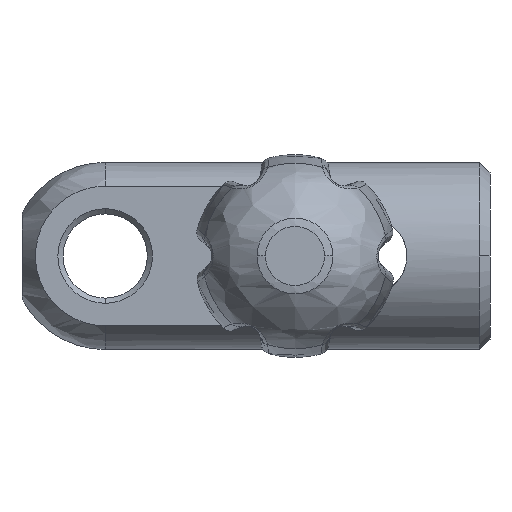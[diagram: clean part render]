
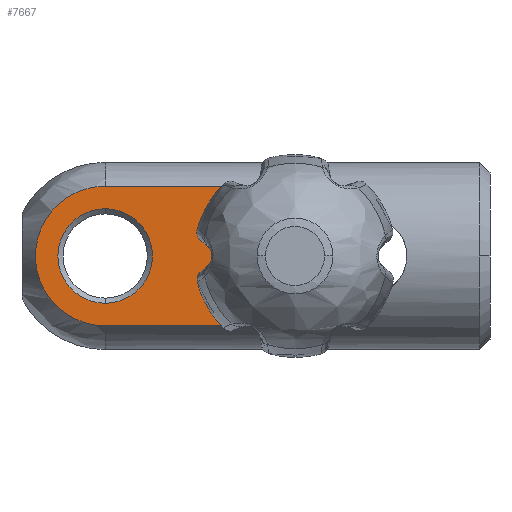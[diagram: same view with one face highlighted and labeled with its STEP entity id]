
A CAD part, left-side view. The second image highlights one B-rep face of the part: STEP entity #7667.
In plain terms, the highlighted planar face has unit normal (-1, 0, 0).
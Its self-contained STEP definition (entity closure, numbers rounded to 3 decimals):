
#129 = DIRECTION ( 'NONE',  ( 0., -1., 0. ) ) ;
#266 = EDGE_CURVE ( 'NONE', #3906, #3676, #6307, .T. ) ;
#279 = CARTESIAN_POINT ( 'NONE',  ( -6., 27.883, -0.121 ) ) ;
#349 = CARTESIAN_POINT ( 'NONE',  ( -6., 21.174, -7.262 ) ) ;
#1028 = CARTESIAN_POINT ( 'NONE',  ( -6., 27.839, -1.431 ) ) ;
#1063 = CARTESIAN_POINT ( 'NONE',  ( -6., 21.617, -7.262 ) ) ;
#1101 = CARTESIAN_POINT ( 'NONE',  ( -6., 27.839, 0.324 ) ) ;
#1134 = CARTESIAN_POINT ( 'NONE',  ( -6., 26.875, 2.989 ) ) ;
#1226 = CARTESIAN_POINT ( 'NONE',  ( -6., 21.174, 6.155 ) ) ;
#1793 = ORIENTED_EDGE ( 'NONE', *, *, #7213, .F. ) ;
#1852 = CARTESIAN_POINT ( 'NONE',  ( -6., 24.149, 5.463 ) ) ;
#1929 = CARTESIAN_POINT ( 'NONE',  ( -6., 23.338, 5.811 ) ) ;
#1966 = CARTESIAN_POINT ( 'NONE',  ( -6., 23.948, 5.558 ) ) ;
#2083 = VERTEX_POINT ( 'NONE', #4510 ) ;
#2474 = CIRCLE ( 'NONE', #6005, 4.55 ) ;
#2479 = VERTEX_POINT ( 'NONE', #3078 ) ;
#2510 = EDGE_CURVE ( 'NONE', #2083, #8155, #3871, .T. ) ;
#2654 = EDGE_CURVE ( 'NONE', #3676, #8176, #3586, .T. ) ;
#2657 = CARTESIAN_POINT ( 'NONE',  ( -6., 21.174, -0.554 ) ) ;
#2701 = CARTESIAN_POINT ( 'NONE',  ( -6., 22.061, 6.11 ) ) ;
#2725 = CARTESIAN_POINT ( 'NONE',  ( -6., 21.174, -5.104 ) ) ;
#2734 = DIRECTION ( 'NONE',  ( -1., 0., 0. ) ) ;
#2738 = CARTESIAN_POINT ( 'NONE',  ( -6., 25.608, -5.606 ) ) ;
#2774 = CARTESIAN_POINT ( 'NONE',  ( -6., 22.92, 5.938 ) ) ;
#2807 = CARTESIAN_POINT ( 'NONE',  ( -6., 27.71, -2.08 ) ) ;
#2848 = CARTESIAN_POINT ( 'NONE',  ( -6., 24.149, -6.582 ) ) ;
#3078 = CARTESIAN_POINT ( 'NONE',  ( -6., 9.174, -7.262 ) ) ;
#3128 = LINE ( 'NONE', #7181, #6692 ) ;
#3189 = CARTESIAN_POINT ( 'NONE',  ( -6., 27.882, -0.554 ) ) ;
#3216 = DIRECTION ( 'NONE',  ( -1., 0., 0. ) ) ;
#3225 = PLANE ( 'NONE',  #10706 ) ;
#3233 = ORIENTED_EDGE ( 'NONE', *, *, #7354, .T. ) ;
#3257 = FACE_BOUND ( 'NONE', #3701, .T. ) ;
#3586 = LINE ( 'NONE', #4378, #4661 ) ;
#3655 = CARTESIAN_POINT ( 'NONE',  ( -6., 27.194, -3.522 ) ) ;
#3676 = VERTEX_POINT ( 'NONE', #1226 ) ;
#3699 = CARTESIAN_POINT ( 'NONE',  ( -6., 26.227, -4.987 ) ) ;
#3701 = EDGE_LOOP ( 'NONE', ( #6328, #1793 ) ) ;
#3823 = ORIENTED_EDGE ( 'NONE', *, *, #7601, .F. ) ;
#3871 = CIRCLE ( 'NONE', #4261, 4.55 ) ;
#3906 = VERTEX_POINT ( 'NONE', #7363 ) ;
#4261 = AXIS2_PLACEMENT_3D ( 'NONE', #8167, #3216, #9925 ) ;
#4378 = CARTESIAN_POINT ( 'NONE',  ( -6., 2.674, 6.155 ) ) ;
#4510 = CARTESIAN_POINT ( 'NONE',  ( -6., 21.174, 3.996 ) ) ;
#4569 = CARTESIAN_POINT ( 'NONE',  ( -6., 27.668, 1.184 ) ) ;
#4661 = VECTOR ( 'NONE', #129, 1000. ) ;
#5028 = EDGE_LOOP ( 'NONE', ( #3233, #5667, #10093, #3823 ) ) ;
#5259 = CARTESIAN_POINT ( 'NONE',  ( -6., 27.195, 2.412 ) ) ;
#5330 = CARTESIAN_POINT ( 'NONE',  ( -6., 27.381, -3.127 ) ) ;
#5366 = CARTESIAN_POINT ( 'NONE',  ( -6., 26.987, -3.909 ) ) ;
#5411 = CARTESIAN_POINT ( 'NONE',  ( -6., 27.528, -2.715 ) ) ;
#5648 = VECTOR ( 'NONE', #6585, 1000. ) ;
#5667 = ORIENTED_EDGE ( 'NONE', *, *, #2654, .F. ) ;
#5817 = DIRECTION ( 'NONE',  ( 1., 0., 0. ) ) ;
#5850 = DIRECTION ( 'NONE',  ( 0., 0., -1. ) ) ;
#6005 = AXIS2_PLACEMENT_3D ( 'NONE', #2657, #2734, #8597 ) ;
#6125 = CARTESIAN_POINT ( 'NONE',  ( -6., 22.696, -7.09 ) ) ;
#6166 = CARTESIAN_POINT ( 'NONE',  ( -6., 26.988, 2.801 ) ) ;
#6307 = B_SPLINE_CURVE_WITH_KNOTS ( 'NONE', 3,
 ( #349, #1063, #7058, #6125, #7893, #8600, #10332, #2848, #9561, #7852, #2738, #3699, #8708, #9485, #5366, #3655, #5330, #5411, #7746, #2807, #1028, #10266, #279, #1101, #4569, #6986, #10409, #5259, #6166, #1134, #10302, #7024, #6948, #9414, #8672, #6909, #1852, #1966, #1929, #2774, #2701, #8637, #7780 ),
 .UNSPECIFIED., .F., .F.,
 ( 4, 2, 2, 2, 2, 2, 2, 2, 1, 2, 2, 2, 2, 2, 2, 2, 2, 2, 2, 2, 2, 4 ),
 ( 0., 0.001, 0.002, 0.003, 0.004, 0.005, 0.007, 0.007, 0.008, 0.009, 0.009, 0.01, 0.012, 0.013, 0.014, 0.014, 0.016, 0.017, 0.018, 0.018, 0.02, 0.021 ),
 .UNSPECIFIED. ) ;
#6328 = ORIENTED_EDGE ( 'NONE', *, *, #2510, .F. ) ;
#6585 = DIRECTION ( 'NONE',  ( 0., 1., 0. ) ) ;
#6692 = VECTOR ( 'NONE', #9613, 1000. ) ;
#6909 = CARTESIAN_POINT ( 'NONE',  ( -6., 24.537, 5.255 ) ) ;
#6948 = CARTESIAN_POINT ( 'NONE',  ( -6., 25.608, 4.5 ) ) ;
#6986 = CARTESIAN_POINT ( 'NONE',  ( -6., 27.542, 1.602 ) ) ;
#7024 = CARTESIAN_POINT ( 'NONE',  ( -6., 26.234, 3.873 ) ) ;
#7058 = CARTESIAN_POINT ( 'NONE',  ( -6., 22.053, -7.218 ) ) ;
#7181 = CARTESIAN_POINT ( 'NONE',  ( -6., 9.174, -0.554 ) ) ;
#7213 = EDGE_CURVE ( 'NONE', #8155, #2083, #2474, .T. ) ;
#7229 = LINE ( 'NONE', #7466, #5648 ) ;
#7354 = EDGE_CURVE ( 'NONE', #2479, #8176, #3128, .T. ) ;
#7363 = CARTESIAN_POINT ( 'NONE',  ( -6., 21.174, -7.262 ) ) ;
#7466 = CARTESIAN_POINT ( 'NONE',  ( -6., 2.674, -7.262 ) ) ;
#7479 = FACE_OUTER_BOUND ( 'NONE', #5028, .T. ) ;
#7601 = EDGE_CURVE ( 'NONE', #2479, #3906, #7229, .T. ) ;
#7667 = ADVANCED_FACE ( 'NONE', ( #3257, #7479 ), #3225, .F. ) ;
#7746 = CARTESIAN_POINT ( 'NONE',  ( -6., 27.656, -2.295 ) ) ;
#7780 = CARTESIAN_POINT ( 'NONE',  ( -6., 21.174, 6.155 ) ) ;
#7852 = CARTESIAN_POINT ( 'NONE',  ( -6., 25.263, -5.89 ) ) ;
#7893 = CARTESIAN_POINT ( 'NONE',  ( -6., 22.909, -7.037 ) ) ;
#8155 = VERTEX_POINT ( 'NONE', #2725 ) ;
#8167 = CARTESIAN_POINT ( 'NONE',  ( -6., 21.174, -0.554 ) ) ;
#8176 = VERTEX_POINT ( 'NONE', #9475 ) ;
#8597 = DIRECTION ( 'NONE',  ( 0., 0., 1. ) ) ;
#8600 = CARTESIAN_POINT ( 'NONE',  ( -6., 23.33, -6.91 ) ) ;
#8637 = CARTESIAN_POINT ( 'NONE',  ( -6., 21.617, 6.155 ) ) ;
#8672 = CARTESIAN_POINT ( 'NONE',  ( -6., 24.724, 5.143 ) ) ;
#8708 = CARTESIAN_POINT ( 'NONE',  ( -6., 26.505, -4.65 ) ) ;
#9414 = CARTESIAN_POINT ( 'NONE',  ( -6., 25.269, 4.778 ) ) ;
#9475 = CARTESIAN_POINT ( 'NONE',  ( -6., 9.174, 6.155 ) ) ;
#9485 = CARTESIAN_POINT ( 'NONE',  ( -6., 26.873, -4.1 ) ) ;
#9561 = CARTESIAN_POINT ( 'NONE',  ( -6., 24.534, -6.376 ) ) ;
#9613 = DIRECTION ( 'NONE',  ( 0., 0., 1. ) ) ;
#9925 = DIRECTION ( 'NONE',  ( 0., 0., 1. ) ) ;
#10093 = ORIENTED_EDGE ( 'NONE', *, *, #266, .F. ) ;
#10266 = CARTESIAN_POINT ( 'NONE',  ( -6., 27.882, -0.995 ) ) ;
#10302 = CARTESIAN_POINT ( 'NONE',  ( -6., 26.511, 3.534 ) ) ;
#10332 = CARTESIAN_POINT ( 'NONE',  ( -6., 23.539, -6.835 ) ) ;
#10409 = CARTESIAN_POINT ( 'NONE',  ( -6., 27.29, 2.211 ) ) ;
#10706 = AXIS2_PLACEMENT_3D ( 'NONE', #3189, #5817, #5850 ) ;
